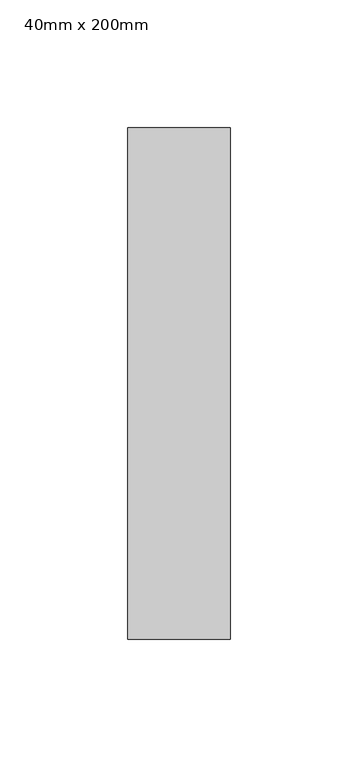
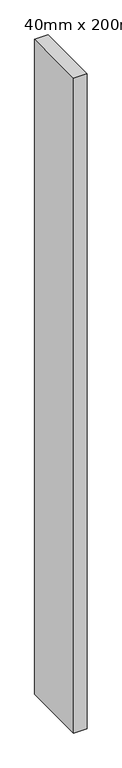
"""IFC4 building model written with IfcOpenShell, lengths in millimetres: column geometry, Poteau - Lamellé-collé - Pin du sud : 40mm x 200mm."""

from ifc_helpers import new_model, si_unit, frame, origin, place, context, project, spatial, polyline, outline, extrude, source, transform, mapped, element, save


def column_40mm_x_200mm_4dcdedf7(model_context):
    return source(origin(), model_context, "Body", "SweptSolid", [
        extrude(outline(polyline([(20.0, 100.0), (20.0, -100.0), (-20.0, -100.0), (-20.0, 100.0), (20.0, 100.0)])), frame((0.0, 0.0, 4150.0), z_axis=(0.0, 0.0, 1.0), x_axis=(1.0, 0.0, 0.0)), (0.0, 0.0, 1.0), 2050.0),
    ])


if __name__ == "__main__":
    model = new_model("IFC4")
    model_context = context("Model", 3, world=origin())
    ifc_project = project(units=[si_unit("LENGTHUNIT", "METRE", prefix="MILLI")], contexts=[model_context])
    site = spatial("IfcSite", under=ifc_project)
    building = spatial("IfcBuilding", under=site)
    placement = place(None, origin())
    column_40mm_x_200mm_shape = column_40mm_x_200mm_4dcdedf7(model_context)
    element("IfcColumn", 1, ObjectType="Poteau - Lamellé-collé - Pin du sud : 40mm x 200mm", at=placement, inside=building, context=model_context, shape_type="MappedRepresentation", body=[
        mapped(column_40mm_x_200mm_shape, transform((0.0, 0.0, 0.0), x_axis=(1.0, 0.0, 0.0), y_axis=(0.0, 1.0, 0.0), z_axis=(0.0, 0.0, 1.0))),
    ])
    save(model, "model.ifc")
